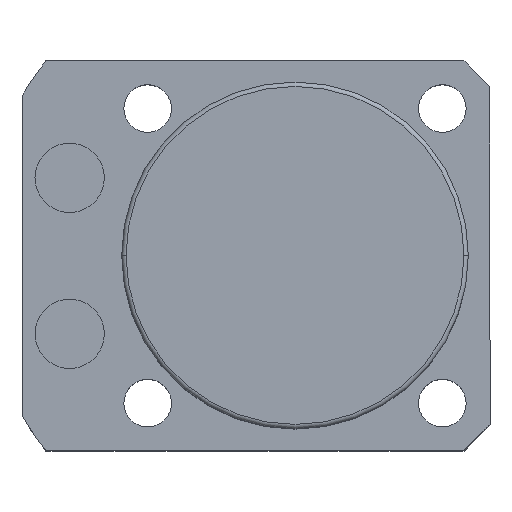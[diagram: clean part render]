
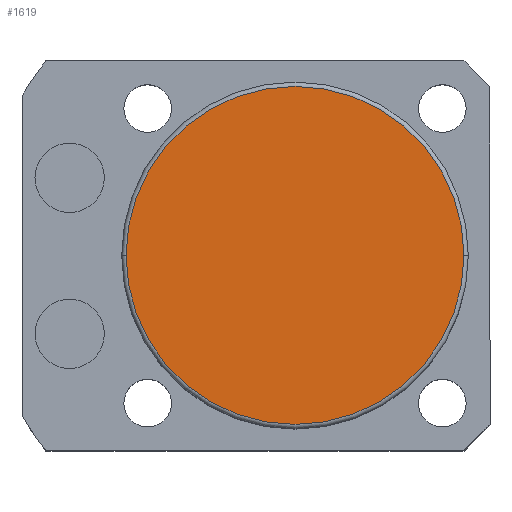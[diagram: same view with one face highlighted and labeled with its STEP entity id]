
A CAD part, top view. The second image highlights one B-rep face of the part: STEP entity #1619.
In plain terms, the highlighted planar face has unit normal (0, 0, 1).
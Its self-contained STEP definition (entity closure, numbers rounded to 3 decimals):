
#24 = AXIS2_PLACEMENT_3D ( 'NONE', #1129, #2580, #2190 ) ;
#40 = EDGE_LOOP ( 'NONE', ( #1267, #2179 ) ) ;
#77 = CARTESIAN_POINT ( 'NONE',  ( 0., 0., 38.5 ) ) ;
#169 = EDGE_CURVE ( 'NONE', #2541, #1930, #2661, .T. ) ;
#323 = PLANE ( 'NONE',  #475 ) ;
#475 = AXIS2_PLACEMENT_3D ( 'NONE', #77, #745, #2198 ) ;
#540 = CIRCLE ( 'NONE', #1744, 19.5 ) ;
#745 = DIRECTION ( 'NONE',  ( 0., 0., 1. ) ) ;
#861 = CARTESIAN_POINT ( 'NONE',  ( 19.5, 0., 38.5 ) ) ;
#1122 = FACE_OUTER_BOUND ( 'NONE', #40, .T. ) ;
#1129 = CARTESIAN_POINT ( 'NONE',  ( 0., 0., 38.5 ) ) ;
#1267 = ORIENTED_EDGE ( 'NONE', *, *, #2103, .T. ) ;
#1349 = DIRECTION ( 'NONE',  ( 0., 0., 1. ) ) ;
#1364 = DIRECTION ( 'NONE',  ( 1., 0., 0. ) ) ;
#1619 = ADVANCED_FACE ( 'NONE', ( #1122 ), #323, .T. ) ;
#1744 = AXIS2_PLACEMENT_3D ( 'NONE', #2608, #1349, #1364 ) ;
#1779 = CARTESIAN_POINT ( 'NONE',  ( -19.5, 0., 38.5 ) ) ;
#1930 = VERTEX_POINT ( 'NONE', #861 ) ;
#2103 = EDGE_CURVE ( 'NONE', #1930, #2541, #540, .T. ) ;
#2179 = ORIENTED_EDGE ( 'NONE', *, *, #169, .T. ) ;
#2190 = DIRECTION ( 'NONE',  ( 1., 0., 0. ) ) ;
#2198 = DIRECTION ( 'NONE',  ( 1., 0., 0. ) ) ;
#2541 = VERTEX_POINT ( 'NONE', #1779 ) ;
#2580 = DIRECTION ( 'NONE',  ( 0., 0., 1. ) ) ;
#2608 = CARTESIAN_POINT ( 'NONE',  ( 0., 0., 38.5 ) ) ;
#2661 = CIRCLE ( 'NONE', #24, 19.5 ) ;
